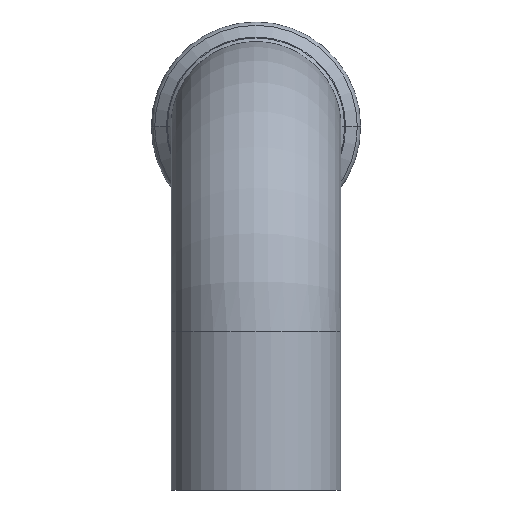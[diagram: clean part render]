
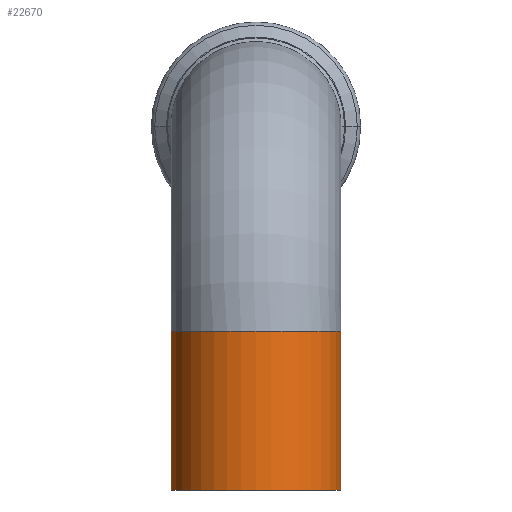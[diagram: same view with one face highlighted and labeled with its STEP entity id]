
A CAD part, left-side view. The second image highlights one B-rep face of the part: STEP entity #22670.
In plain terms, the highlighted cylindrical face has radius 44.45 mm (diameter 88.9 mm), a partial arc.
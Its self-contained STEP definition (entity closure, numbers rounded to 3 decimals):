
#850=CARTESIAN_POINT('',(-101.,0.,-107.));
#860=DIRECTION('',(0.,0.,1.));
#870=DIRECTION('',(0.,1.,0.));
#880=AXIS2_PLACEMENT_3D('',#850,#860,#870);
#890=CYLINDRICAL_SURFACE('',#880,44.45);
#900=CARTESIAN_POINT('',(-101.,-44.45,-107.));
#910=DIRECTION('',(0.,0.,1.));
#920=VECTOR('',#910,1.);
#930=LINE('',#900,#920);
#940=CARTESIAN_POINT('',(-101.,-44.45,-190.));
#950=VERTEX_POINT('',#940);
#960=CARTESIAN_POINT('',(-101.,-44.45,-107.));
#970=VERTEX_POINT('',#960);
#980=EDGE_CURVE('',#950,#970,#930,.T.);
#1000=CARTESIAN_POINT('',(-101.,0.,-107.));
#1010=DIRECTION('',(0.,0.,-1.));
#1020=DIRECTION('',(0.,1.,0.));
#1030=AXIS2_PLACEMENT_3D('',#1000,#1010,#1020);
#1040=CIRCLE('',#1030,44.45);
#1050=CARTESIAN_POINT('',(-101.,44.45,-107.));
#1060=VERTEX_POINT('',#1050);
#1090=CARTESIAN_POINT('',(-101.,44.45,-107.));
#1100=DIRECTION('',(0.,0.,1.));
#1110=VECTOR('',#1100,1.);
#1120=LINE('',#1090,#1110);
#1130=CARTESIAN_POINT('',(-101.,44.45,-190.));
#1140=VERTEX_POINT('',#1130);
#1150=EDGE_CURVE('',#1140,#1060,#1120,.T.);
#1170=CARTESIAN_POINT('',(-101.,0.,-190.));
#1180=DIRECTION('',(0.,0.,1.));
#1190=DIRECTION('',(0.,1.,0.));
#1200=AXIS2_PLACEMENT_3D('',#1170,#1180,#1190);
#1210=CIRCLE('',#1200,44.45);
#12050=EDGE_CURVE('',#1140,#950,#1210,.T.);
#12430=EDGE_CURVE('',#970,#1060,#1040,.T.);
#22610=ORIENTED_EDGE('',*,*,#980,.T.);
#22620=ORIENTED_EDGE('',*,*,#12050,.T.);
#22630=ORIENTED_EDGE('',*,*,#1150,.F.);
#22640=ORIENTED_EDGE('',*,*,#12430,.T.);
#22650=EDGE_LOOP('',(#22640,#22630,#22620,#22610));
#22660=FACE_OUTER_BOUND('',#22650,.T.);
#22670=ADVANCED_FACE('',(#22660),#890,.T.);
